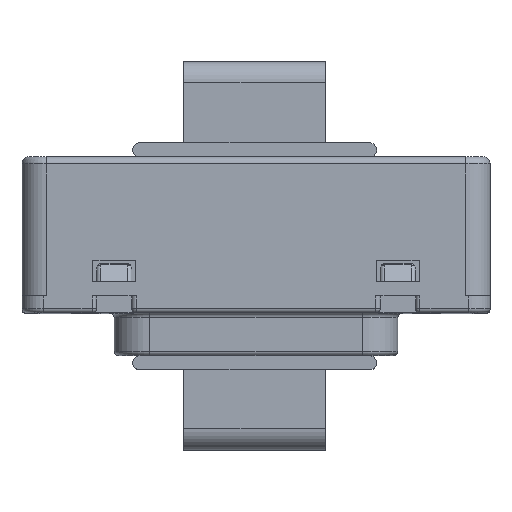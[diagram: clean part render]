
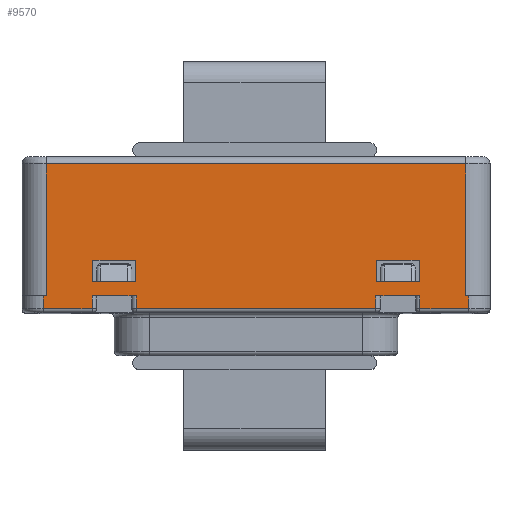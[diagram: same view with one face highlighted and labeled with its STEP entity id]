
A CAD part, top view. The second image highlights one B-rep face of the part: STEP entity #9570.
In plain terms, the highlighted planar face has unit normal (0, 0, 1) as drawn and (0, 1, 0) by its records, which use the part's own axes.
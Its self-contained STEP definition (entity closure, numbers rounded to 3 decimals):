
#4500=CARTESIAN_POINT('',(15.,13.,9.8));
#4510=DIRECTION('',(0.,0.,1.));
#4520=VECTOR('',#4510,1.);
#4530=LINE('',#4500,#4520);
#4540=CARTESIAN_POINT('',(15.,13.,9.8));
#4550=VERTEX_POINT('',#4540);
#4560=CARTESIAN_POINT('',(15.,13.,10.7));
#4570=VERTEX_POINT('',#4560);
#4580=EDGE_CURVE('',#4550,#4570,#4530,.T.);
#4890=CARTESIAN_POINT('',(-15.,13.,9.8));
#4900=VERTEX_POINT('',#4890);
#4930=CARTESIAN_POINT('',(-15.,13.,9.8));
#4940=DIRECTION('',(0.,0.,1.));
#4950=VECTOR('',#4940,1.);
#4960=LINE('',#4930,#4950);
#4970=CARTESIAN_POINT('',(-15.,13.,10.7));
#4980=VERTEX_POINT('',#4970);
#4990=EDGE_CURVE('',#4900,#4980,#4960,.T.);
#6360=CARTESIAN_POINT('',(11.55,13.,9.8));
#6370=VERTEX_POINT('',#6360);
#6400=CARTESIAN_POINT('',(11.55,13.,9.8));
#6410=DIRECTION('',(0.,0.,-1.));
#6420=VECTOR('',#6410,1.);
#6430=LINE('',#6400,#6420);
#6440=CARTESIAN_POINT('',(11.55,13.,10.7));
#6450=VERTEX_POINT('',#6440);
#6460=EDGE_CURVE('',#6450,#6370,#6430,.T.);
#7890=CARTESIAN_POINT('',(-16.5,13.,9.8));
#7900=DIRECTION('',(-0.,1.,0.));
#7910=DIRECTION('',(1.,0.,0.));
#7920=AXIS2_PLACEMENT_3D('',#7890,#7900,#7910);
#7930=PLANE('',#7920);
#7940=CARTESIAN_POINT('',(-8.45,13.,9.8));
#7950=DIRECTION('',(0.,0.,-1.));
#7960=VECTOR('',#7950,1.);
#7970=LINE('',#7940,#7960);
#7980=CARTESIAN_POINT('',(-8.45,13.,10.7));
#7990=VERTEX_POINT('',#7980);
#8000=CARTESIAN_POINT('',(-8.45,13.,9.8));
#8010=VERTEX_POINT('',#8000);
#8020=EDGE_CURVE('',#7990,#8010,#7970,.T.);
#8030=ORIENTED_EDGE('',*,*,#8020,.F.);
#8040=CARTESIAN_POINT('',(0.,13.,9.8));
#8050=DIRECTION('',(1.,0.,0.));
#8060=VECTOR('',#8050,1.);
#8070=LINE('',#8040,#8060);
#8080=CARTESIAN_POINT('',(-11.55,13.,9.8));
#8090=VERTEX_POINT('',#8080);
#8100=EDGE_CURVE('',#8090,#8010,#8070,.T.);
#8110=ORIENTED_EDGE('',*,*,#8100,.T.);
#8120=CARTESIAN_POINT('',(-11.55,13.,9.8));
#8130=DIRECTION('',(0.,0.,1.));
#8140=VECTOR('',#8130,1.);
#8150=LINE('',#8120,#8140);
#8160=CARTESIAN_POINT('',(-11.55,13.,10.7));
#8170=VERTEX_POINT('',#8160);
#8180=EDGE_CURVE('',#8090,#8170,#8150,.T.);
#8190=ORIENTED_EDGE('',*,*,#8180,.F.);
#8200=CARTESIAN_POINT('',(15.736,13.,10.7));
#8210=DIRECTION('',(-1.,0.,0.));
#8220=VECTOR('',#8210,1.);
#8230=LINE('',#8200,#8220);
#8240=EDGE_CURVE('',#8170,#4980,#8230,.T.);
#8250=ORIENTED_EDGE('',*,*,#8240,.F.);
#8260=ORIENTED_EDGE('',*,*,#4990,.T.);
#8270=CARTESIAN_POINT('',(-16.5,13.,9.8));
#8280=DIRECTION('',(1.,0.,0.));
#8290=VECTOR('',#8280,1.);
#8300=LINE('',#8270,#8290);
#8310=CARTESIAN_POINT('',(-14.8,13.,9.8));
#8320=VERTEX_POINT('',#8310);
#8330=EDGE_CURVE('',#4900,#8320,#8300,.T.);
#8340=ORIENTED_EDGE('',*,*,#8330,.F.);
#8350=CARTESIAN_POINT('',(-14.8,13.,0.));
#8360=DIRECTION('',(0.,0.,1.));
#8370=VECTOR('',#8360,1.);
#8380=LINE('',#8350,#8370);
#8390=CARTESIAN_POINT('',(-14.8,13.,0.5));
#8400=VERTEX_POINT('',#8390);
#8410=EDGE_CURVE('',#8400,#8320,#8380,.T.);
#8420=ORIENTED_EDGE('',*,*,#8410,.T.);
#8430=CARTESIAN_POINT('',(0.,13.,0.5));
#8440=DIRECTION('',(-1.,0.,0.));
#8450=VECTOR('',#8440,1.);
#8460=LINE('',#8430,#8450);
#8470=CARTESIAN_POINT('',(14.8,13.,0.5));
#8480=VERTEX_POINT('',#8470);
#8490=EDGE_CURVE('',#8480,#8400,#8460,.T.);
#8500=ORIENTED_EDGE('',*,*,#8490,.T.);
#8510=CARTESIAN_POINT('',(14.8,13.,0.));
#8520=DIRECTION('',(0.,0.,1.));
#8530=VECTOR('',#8520,1.);
#8540=LINE('',#8510,#8530);
#8550=CARTESIAN_POINT('',(14.8,13.,9.8));
#8560=VERTEX_POINT('',#8550);
#8570=EDGE_CURVE('',#8480,#8560,#8540,.T.);
#8580=ORIENTED_EDGE('',*,*,#8570,.F.);
#8590=EDGE_CURVE('',#8560,#4550,#8300,.T.);
#8600=ORIENTED_EDGE('',*,*,#8590,.F.);
#8610=ORIENTED_EDGE('',*,*,#4580,.F.);
#8620=CARTESIAN_POINT('',(15.736,13.,10.7));
#8630=DIRECTION('',(-1.,0.,0.));
#8640=VECTOR('',#8630,1.);
#8650=LINE('',#8620,#8640);
#8660=EDGE_CURVE('',#4570,#6450,#8650,.T.);
#8670=ORIENTED_EDGE('',*,*,#8660,.F.);
#8680=ORIENTED_EDGE('',*,*,#6460,.F.);
#8690=CARTESIAN_POINT('',(8.45,13.,9.8));
#8700=VERTEX_POINT('',#8690);
#8710=EDGE_CURVE('',#8700,#6370,#8070,.T.);
#8720=ORIENTED_EDGE('',*,*,#8710,.T.);
#8730=CARTESIAN_POINT('',(8.45,13.,9.8));
#8740=DIRECTION('',(0.,0.,1.));
#8750=VECTOR('',#8740,1.);
#8760=LINE('',#8730,#8750);
#8770=CARTESIAN_POINT('',(8.45,13.,10.7));
#8780=VERTEX_POINT('',#8770);
#8790=EDGE_CURVE('',#8700,#8780,#8760,.T.);
#8800=ORIENTED_EDGE('',*,*,#8790,.F.);
#8810=CARTESIAN_POINT('',(15.736,13.,10.7));
#8820=DIRECTION('',(-1.,0.,0.));
#8830=VECTOR('',#8820,1.);
#8840=LINE('',#8810,#8830);
#8850=EDGE_CURVE('',#8780,#7990,#8840,.T.);
#8860=ORIENTED_EDGE('',*,*,#8850,.F.);
#8870=EDGE_LOOP('',(#8860,#8800,#8720,#8680,#8670,#8610,#8600,#8580,
#8500,#8420,#8340,#8260,#8250,#8190,#8110,#8030));
#8880=FACE_OUTER_BOUND('',#8870,.T.);
#8890=CARTESIAN_POINT('',(-8.5,13.,0.));
#8900=DIRECTION('',(0.,0.,-1.));
#8910=VECTOR('',#8900,1.);
#8920=LINE('',#8890,#8910);
#8930=CARTESIAN_POINT('',(-8.5,13.,8.8));
#8940=VERTEX_POINT('',#8930);
#8950=CARTESIAN_POINT('',(-8.5,13.,7.3));
#8960=VERTEX_POINT('',#8950);
#8970=EDGE_CURVE('',#8940,#8960,#8920,.T.);
#8980=ORIENTED_EDGE('',*,*,#8970,.F.);
#8990=CARTESIAN_POINT('',(0.,13.,7.3));
#9000=DIRECTION('',(-1.,0.,0.));
#9010=VECTOR('',#9000,1.);
#9020=LINE('',#8990,#9010);
#9030=CARTESIAN_POINT('',(-11.5,13.,7.3));
#9040=VERTEX_POINT('',#9030);
#9050=EDGE_CURVE('',#8960,#9040,#9020,.T.);
#9060=ORIENTED_EDGE('',*,*,#9050,.F.);
#9070=CARTESIAN_POINT('',(-11.5,13.,0.));
#9080=DIRECTION('',(0.,0.,1.));
#9090=VECTOR('',#9080,1.);
#9100=LINE('',#9070,#9090);
#9110=CARTESIAN_POINT('',(-11.5,13.,8.8));
#9120=VERTEX_POINT('',#9110);
#9130=EDGE_CURVE('',#9040,#9120,#9100,.T.);
#9140=ORIENTED_EDGE('',*,*,#9130,.F.);
#9150=CARTESIAN_POINT('',(0.,13.,8.8));
#9160=DIRECTION('',(1.,0.,0.));
#9170=VECTOR('',#9160,1.);
#9180=LINE('',#9150,#9170);
#9190=EDGE_CURVE('',#9120,#8940,#9180,.T.);
#9200=ORIENTED_EDGE('',*,*,#9190,.F.);
#9210=EDGE_LOOP('',(#9200,#9140,#9060,#8980));
#9220=FACE_BOUND('',#9210,.T.);
#9230=CARTESIAN_POINT('',(11.5,13.,0.));
#9240=DIRECTION('',(0.,0.,-1.));
#9250=VECTOR('',#9240,1.);
#9260=LINE('',#9230,#9250);
#9270=CARTESIAN_POINT('',(11.5,13.,8.8));
#9280=VERTEX_POINT('',#9270);
#9290=CARTESIAN_POINT('',(11.5,13.,7.3));
#9300=VERTEX_POINT('',#9290);
#9310=EDGE_CURVE('',#9280,#9300,#9260,.T.);
#9320=ORIENTED_EDGE('',*,*,#9310,.F.);
#9330=CARTESIAN_POINT('',(0.,13.,7.3));
#9340=DIRECTION('',(-1.,0.,0.));
#9350=VECTOR('',#9340,1.);
#9360=LINE('',#9330,#9350);
#9370=CARTESIAN_POINT('',(8.5,13.,7.3));
#9380=VERTEX_POINT('',#9370);
#9390=EDGE_CURVE('',#9300,#9380,#9360,.T.);
#9400=ORIENTED_EDGE('',*,*,#9390,.F.);
#9410=CARTESIAN_POINT('',(8.5,13.,0.));
#9420=DIRECTION('',(0.,0.,1.));
#9430=VECTOR('',#9420,1.);
#9440=LINE('',#9410,#9430);
#9450=CARTESIAN_POINT('',(8.5,13.,8.8));
#9460=VERTEX_POINT('',#9450);
#9470=EDGE_CURVE('',#9380,#9460,#9440,.T.);
#9480=ORIENTED_EDGE('',*,*,#9470,.F.);
#9490=CARTESIAN_POINT('',(0.,13.,8.8));
#9500=DIRECTION('',(1.,0.,0.));
#9510=VECTOR('',#9500,1.);
#9520=LINE('',#9490,#9510);
#9530=EDGE_CURVE('',#9460,#9280,#9520,.T.);
#9540=ORIENTED_EDGE('',*,*,#9530,.F.);
#9550=EDGE_LOOP('',(#9540,#9480,#9400,#9320));
#9560=FACE_BOUND('',#9550,.T.);
#9570=ADVANCED_FACE('',(#8880,#9220,#9560),#7930,.T.);
